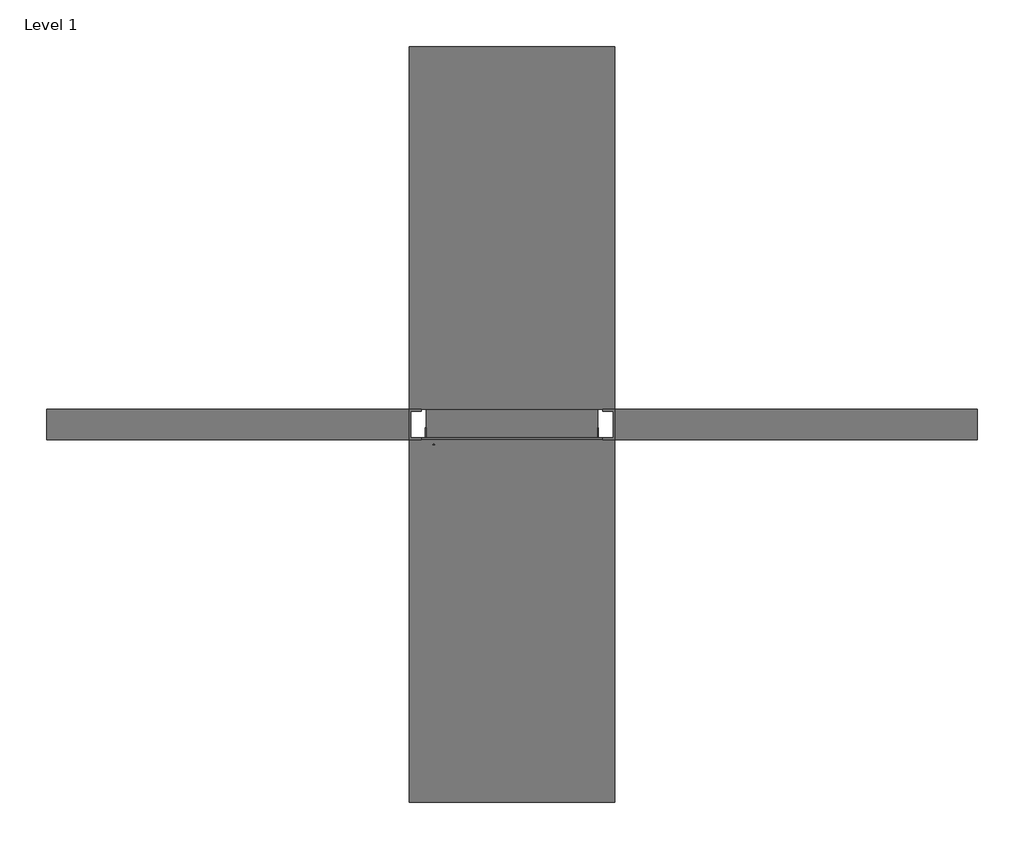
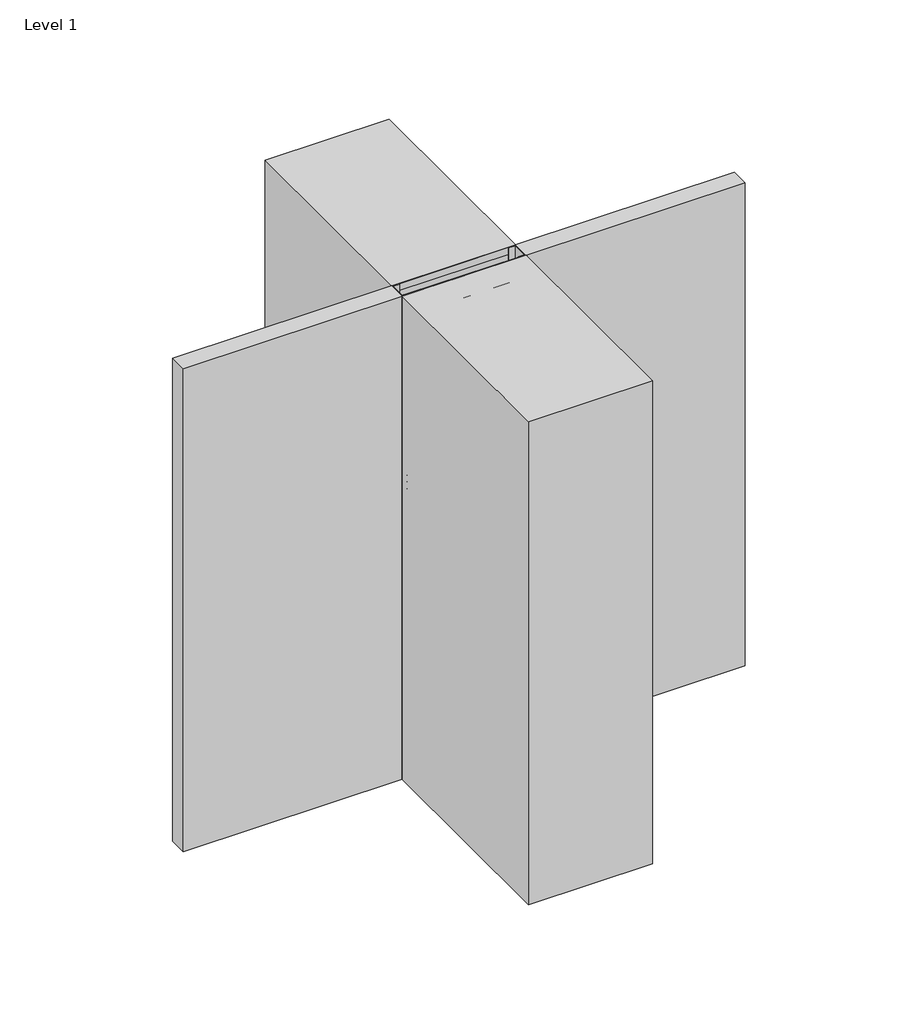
# One storey: 14 electric appliances.
"""IFC4 building model written with IfcOpenShell, lengths in millimetres."""

from ifc_helpers import new_model, si_unit, origin, place, context, project, spatial, transform, mapped, element, save
from components import electric_appliance_788d60a8, electric_appliance_4_ru_4400f168, electric_appliance_44u_5c7a93dd

model = new_model("IFC4")

# Units and contexts
model_context = context("Model", 3, world=origin())
ifc_project = project(units=[si_unit("LENGTHUNIT", "METRE", prefix="MILLI")], contexts=[model_context])

# Site, building, storey
site = spatial("IfcSite", under=ifc_project)
building = spatial("IfcBuilding", under=site)
storey = spatial("IfcBuildingStorey", under=building, Name="Level 1", Elevation=0.0)

# Electric appliances
placement = place(None, origin())
electric_appliance_shape = electric_appliance_788d60a8(model_context)
element("IfcElectricAppliance", 1, ObjectType="Adapter_Module-Fiber-Corning-Plug_&_Play : 12 F, Multimode OM3", at=placement, inside=storey, context=model_context, shape_type="MappedRepresentation", body=[
    mapped(electric_appliance_shape, transform((4084.4889867, 176.7709835, 1277.4277394), x_axis=(0.0, 0.0, 1.0), y_axis=(-1.0, 0.0, 0.0), z_axis=(0.0, -1.0, 0.0))),
])
element("IfcElectricAppliance", 2, ObjectType="Adapter_Module-Fiber-Corning-Plug_&_Play : 12 F, Multimode OM3", at=placement, inside=storey, context=model_context, shape_type="MappedRepresentation", body=[
    mapped(electric_appliance_shape, transform((3977.1231867, 176.7709835, 1277.4277394), x_axis=(0.0, 0.0, 1.0), y_axis=(-1.0, 0.0, 0.0), z_axis=(0.0, -1.0, 0.0))),
])
element("IfcElectricAppliance", 3, ObjectType="Adapter_Module-Fiber-Corning-Plug_&_Play : 12 F, Multimode OM3", at=placement, inside=storey, context=model_context, shape_type="MappedRepresentation", body=[
    mapped(electric_appliance_shape, transform((4227.6433867, 176.7709835, 1277.4277394), x_axis=(0.0, 0.0, 1.0), y_axis=(-1.0, 0.0, 0.0), z_axis=(0.0, -1.0, 0.0))),
])
element("IfcElectricAppliance", 4, ObjectType="Adapter_Module-Fiber-Corning-Plug_&_Play : 12 F, Multimode OM3", at=placement, inside=storey, context=model_context, shape_type="MappedRepresentation", body=[
    mapped(electric_appliance_shape, transform((4263.4319867, 176.7709835, 1277.4277394), x_axis=(0.0, 0.0, 1.0), y_axis=(-1.0, 0.0, 0.0), z_axis=(0.0, -1.0, 0.0))),
])
element("IfcElectricAppliance", 5, ObjectType="Adapter_Module-Fiber-Corning-Plug_&_Play : 12 F, Multimode OM3", at=placement, inside=storey, context=model_context, shape_type="MappedRepresentation", body=[
    mapped(electric_appliance_shape, transform((4370.8253893, 176.7709835, 1276.3813678), x_axis=(0.0, 0.0, 1.0), y_axis=(-1.0, 0.0, 0.0), z_axis=(0.0, -1.0, 0.0))),
])
element("IfcElectricAppliance", 6, ObjectType="Adapter_Module-Fiber-Corning-Plug_&_Play : 24 F, Multimode OM3", at=placement, inside=storey, context=model_context, shape_type="MappedRepresentation", body=[
    mapped(electric_appliance_shape, transform((4012.9117867, 176.7709835, 1277.4277394), x_axis=(0.0, 0.0, 1.0), y_axis=(-1.0, 0.0, 0.0), z_axis=(0.0, -1.0, 0.0))),
])
element("IfcElectricAppliance", 7, ObjectType="Adapter_Module-Fiber-Corning-Plug_&_Play : 24 F, Multimode OM3", at=placement, inside=storey, context=model_context, shape_type="MappedRepresentation", body=[
    mapped(electric_appliance_shape, transform((4156.0661867, 176.7709835, 1277.4277394), x_axis=(0.0, 0.0, 1.0), y_axis=(-1.0, 0.0, 0.0), z_axis=(0.0, -1.0, 0.0))),
])
element("IfcElectricAppliance", 8, ObjectType="Adapter_Module-Fiber-Corning-Plug_&_Play : 24 F, Multimode OM3", at=placement, inside=storey, context=model_context, shape_type="MappedRepresentation", body=[
    mapped(electric_appliance_shape, transform((4191.8547867, 176.7709835, 1277.4277394), x_axis=(0.0, 0.0, 1.0), y_axis=(-1.0, 0.0, 0.0), z_axis=(0.0, -1.0, 0.0))),
])
element("IfcElectricAppliance", 9, ObjectType="Adapter_Module-Fiber-Corning-Plug_&_Play : 24 F, Multimode OM3", at=placement, inside=storey, context=model_context, shape_type="MappedRepresentation", body=[
    mapped(electric_appliance_shape, transform((4334.9938867, 176.7709835, 1276.3813678), x_axis=(0.0, 0.0, 1.0), y_axis=(-1.0, 0.0, 0.0), z_axis=(0.0, -1.0, 0.0))),
])
element("IfcElectricAppliance", 10, ObjectType="Adapter_Module-Fiber-Corning-Plug_&_Play : 12 F, Single-mode OS2", at=placement, inside=storey, context=model_context, shape_type="MappedRepresentation", body=[
    mapped(electric_appliance_shape, transform((4120.2775867, 176.7709835, 1277.4277394), x_axis=(0.0, 0.0, 1.0), y_axis=(-1.0, 0.0, 0.0), z_axis=(0.0, -1.0, 0.0))),
])
element("IfcElectricAppliance", 11, ObjectType="Adapter_Module-Fiber-Corning-Plug_&_Play : 12 F, Single-mode OS2", at=placement, inside=storey, context=model_context, shape_type="MappedRepresentation", body=[
    mapped(electric_appliance_shape, transform((4299.2205867, 176.7709835, 1277.4277394), x_axis=(0.0, 0.0, 1.0), y_axis=(-1.0, 0.0, 0.0), z_axis=(0.0, -1.0, 0.0))),
])
element("IfcElectricAppliance", 12, ObjectType="Adapter_Module-Fiber-Corning-Plug_&_Play : 24 F, Single-mode OS2", at=placement, inside=storey, context=model_context, shape_type="MappedRepresentation", body=[
    mapped(electric_appliance_shape, transform((4048.7003867, 176.7709835, 1277.4277394), x_axis=(0.0, 0.0, 1.0), y_axis=(-1.0, 0.0, 0.0), z_axis=(0.0, -1.0, 0.0))),
])
electric_appliance_4_ru_shape = electric_appliance_4_ru_4400f168(model_context)
element("IfcElectricAppliance", 13, ObjectType="Housing-Rack_Mount-Corning-Plug_&_Play-PCH : 4 RU", at=placement, inside=storey, context=model_context, shape_type="MappedRepresentation", body=[
    mapped(electric_appliance_4_ru_shape, transform((4173.974288, 179.0569835, 1339.9321608), x_axis=(1.0, 0.0, 0.0), y_axis=(0.0, 0.0, 1.0), z_axis=(0.0, -1.0, 0.0))),
])
electric_appliance_44u_shape = electric_appliance_44u_5c7a93dd(model_context)
element("IfcElectricAppliance", 14, ObjectType="Rack-2_Post-Corning-CDF : 44U", at=placement, inside=storey, context=model_context, shape_type="MappedRepresentation", body=[
    mapped(electric_appliance_44u_shape, transform((4174.2029106, 249.5997835, 0.0), x_axis=(1.0, 0.0, 0.0), y_axis=(0.0, 1.0, 0.0), z_axis=(0.0, 0.0, 1.0))),
])

save(model, "model.ifc")
